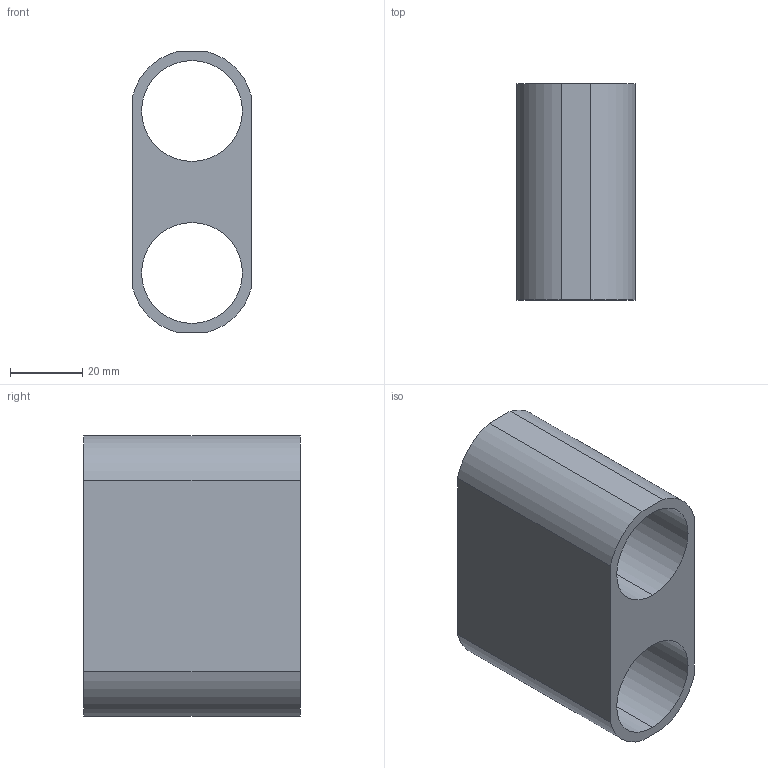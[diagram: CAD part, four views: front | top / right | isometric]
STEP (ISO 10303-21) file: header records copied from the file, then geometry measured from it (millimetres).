
FILE_DESCRIPTION (( 'STEP AP214' ), '1' );
FILE_NAME ('PJ-604.STEP', '2023-09-12T11:21:39', ( 'catia' ), ( 'HP Inc.' ), 'SwSTEP 2.0', 'SolidWorks 2021', '' );
FILE_SCHEMA (( 'AUTOMOTIVE_DESIGN' ));
Length unit declared in the file: millimetre
Products named in the file (1): PJ-604
Bounding box: 33 x 60 x 78 mm (x, y, z)
Volume: 69028.2 mm3; surface area: 24646.1 mm2
Topology: 1 solids, 1 shells, 14 faces, 36 edges, 24 vertices
Faces by surface type: cylinder 8, plane 6
Entity records: 478 total; most frequent: DIRECTION 82, CARTESIAN_POINT 75, ORIENTED_EDGE 72, EDGE_CURVE 36, AXIS2_PLACEMENT_3D 31, VERTEX_POINT 24, LINE 20, VECTOR 20
